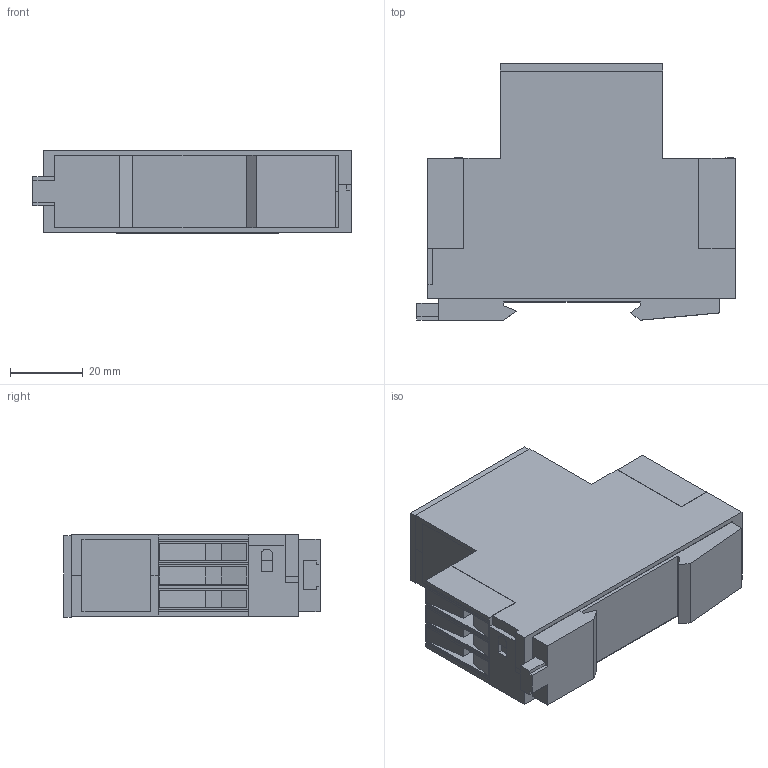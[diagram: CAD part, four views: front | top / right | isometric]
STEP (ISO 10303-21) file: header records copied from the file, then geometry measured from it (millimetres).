
FILE_DESCRIPTION (( 'STEP AP214' ), '1' );
FILE_NAME ('KR_AC24_R.STEP', '2019-05-07T16:16:41', ( '' ), ( '' ), 'SwSTEP 2.0', 'SolidWorks 2013', '' );
FILE_SCHEMA (( 'AUTOMOTIVE_DESIGN' ));
Length unit declared in the file: millimetre
Products named in the file (12): zaklad_22_5; Krab_1; Popis svorky_2_; Popis svorky_3_; klip_din; Svorka_2; Popis svorky_4_; Popis svorky_1_; Nap_px24; KR_AC24_R; Zaslepka; viko_TS30DIN
Assembly tree (14 placements, depth 3):
  KR_AC24_R
    zaklad_22_5
      Krab_1  x2
      viko_TS30DIN
      klip_din
    Svorka_2  x2
    Zaslepka  x2
    Nap_px24
    Popis svorky_1_
    Popis svorky_3_
    Popis svorky_4_
    Popis svorky_2_
Bounding box: 87.8 x 70.7 x 22.89 mm (x, y, z)
Volume: 34134 mm3; surface area: 35333 mm2
Topology: 23 solids, 23 shells, 576 faces, 1536 edges, 1024 vertices
Faces by surface type: plane 494, bspline 64, cylinder 18
Entity records: 17369 total; most frequent: CARTESIAN_POINT 6148, ORIENTED_EDGE 2184, DIRECTION 1734, EDGE_CURVE 1092, LINE 930, VECTOR 930, VERTEX_POINT 728, EDGE_LOOP 440
